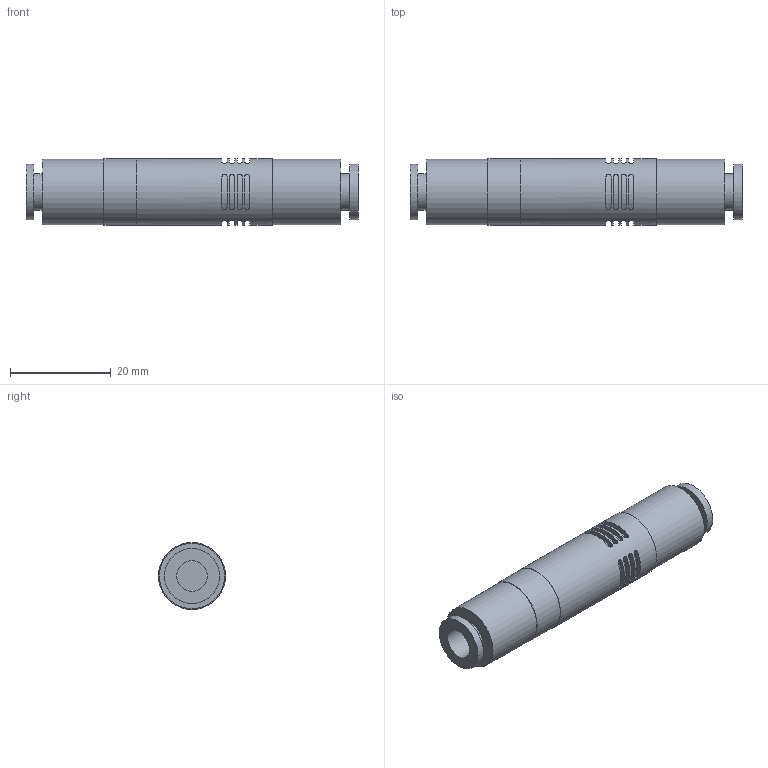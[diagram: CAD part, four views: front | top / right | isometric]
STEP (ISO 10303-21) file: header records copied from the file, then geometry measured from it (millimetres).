
FILE_DESCRIPTION (( 'STEP AP214' ), '1' );
FILE_NAME ('V-VUH-05-66.STEP', '2025-01-29T16:15:14', ( '' ), ( '' ), 'SwSTEP 2.0', 'SolidWorks 2018', '' );
FILE_SCHEMA (( 'AUTOMOTIVE_DESIGN' ));
Length unit declared in the file: millimetre
Products named in the file (1): V-VUH-05-66
Bounding box: 66 x 13.3 x 13.3 mm (x, y, z)
Volume: 7862.4 mm3; surface area: 3738.8 mm2
Topology: 1 solids, 1 shells, 101 faces, 235 edges, 157 vertices
Faces by surface type: cylinder 58, plane 43
Full cylindrical faces by diameter (mm): 6.1 x2, 7.3 x2, 10.95 x1, 10.98 x1, 12.98 x2, 13.2 x1, 13.3 x1
Entity records: 3536 total; most frequent: CARTESIAN_POINT 1342, DIRECTION 436, ORIENTED_EDGE 424, EDGE_CURVE 212, AXIS2_PLACEMENT_3D 186, VERTEX_POINT 148, EDGE_LOOP 136, FACE_OUTER_BOUND 111
